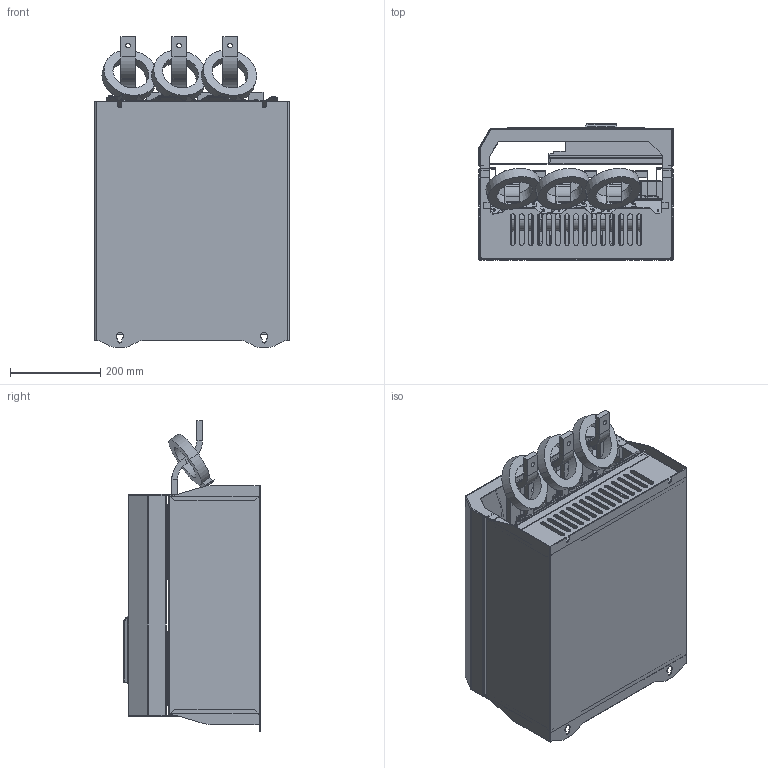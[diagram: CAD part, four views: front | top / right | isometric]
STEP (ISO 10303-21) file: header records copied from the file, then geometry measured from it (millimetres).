
FILE_DESCRIPTION (( 'STEP AP214' ), '1' );
FILE_NAME ('EMX3 G4C General Assembly, Simplified, Bot-Bot, 21NOV12.STEP', '2012-11-27T00:54:06', ( '' ), ( '' ), 'SwSTEP 2.0', 'SolidWorks 2012', '' );
FILE_SCHEMA (( 'AUTOMOTIVE_DESIGN' ));
Length unit declared in the file: millimetre
Products named in the file (1): EMX3 G4C General Assembly, Simplified, Bot-Bot, 21NOV12
Bounding box: 430.2 x 302.1 x 688.87 mm (x, y, z)
Volume: 14410998.1 mm3; surface area: 6509302.2 mm2
Topology: 63 solids, 63 shells, 4100 faces, 10610 edges, 6890 vertices
Faces by surface type: plane 2373, cylinder 794, bspline 733, cone 110, sphere 45, torus 45
Entity records: 189452 total; most frequent: CARTESIAN_POINT 46821, ORIENTED_EDGE 21186, DIRECTION 17729, EDGE_CURVE 10593, LINE 7005, VECTOR 7005, VERTEX_POINT 6890, AXIS2_PLACEMENT_3D 5362
